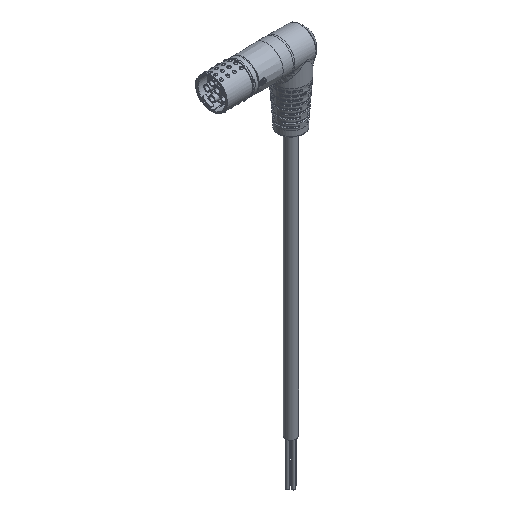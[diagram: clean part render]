
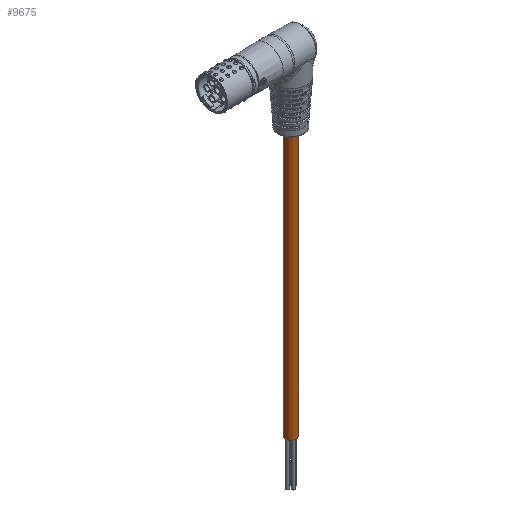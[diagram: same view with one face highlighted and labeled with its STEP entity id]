
A CAD part, isometric view. The second image highlights one B-rep face of the part: STEP entity #9675.
In plain terms, the highlighted cylindrical face has radius 3.7 mm (diameter 7.4 mm), a full revolution.
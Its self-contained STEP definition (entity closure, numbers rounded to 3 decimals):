
#2150 = DIRECTION ( 'NONE',  ( 0., 0., -1. ) ) ;
#5062 = EDGE_LOOP ( 'NONE', ( #20272 ) ) ;
#6909 = EDGE_CURVE ( 'NONE', #18928, #18928, #15703, .T. ) ;
#7512 = AXIS2_PLACEMENT_3D ( 'NONE', #33177, #2150, #8554 ) ;
#8554 = DIRECTION ( 'NONE',  ( 0.762, 0.647, 0. ) ) ;
#9297 = DIRECTION ( 'NONE',  ( 0., 0., -1. ) ) ;
#9675 = ADVANCED_FACE ( 'NONE', ( #20568, #39815 ), #33180, .T. ) ;
#11622 = ORIENTED_EDGE ( 'NONE', *, *, #6909, .T. ) ;
#13464 = CIRCLE ( 'NONE', #7512, 3.7 ) ;
#15703 = CIRCLE ( 'NONE', #21002, 3.7 ) ;
#18928 = VERTEX_POINT ( 'NONE', #28855 ) ;
#19125 = VERTEX_POINT ( 'NONE', #35061 ) ;
#20272 = ORIENTED_EDGE ( 'NONE', *, *, #30372, .F. ) ;
#20568 = FACE_OUTER_BOUND ( 'NONE', #5062, .T. ) ;
#21002 = AXIS2_PLACEMENT_3D ( 'NONE', #21931, #9297, #28344 ) ;
#21931 = CARTESIAN_POINT ( 'NONE',  ( 0., 0., -20.793 ) ) ;
#23985 = EDGE_LOOP ( 'NONE', ( #11622 ) ) ;
#28069 = AXIS2_PLACEMENT_3D ( 'NONE', #40030, #39181, #32777 ) ;
#28344 = DIRECTION ( 'NONE',  ( -0.762, -0.647, 0. ) ) ;
#28855 = CARTESIAN_POINT ( 'NONE',  ( -2.82, -2.395, -20.793 ) ) ;
#30372 = EDGE_CURVE ( 'NONE', #19125, #19125, #13464, .T. ) ;
#32777 = DIRECTION ( 'NONE',  ( -0.762, -0.647, 0. ) ) ;
#33177 = CARTESIAN_POINT ( 'NONE',  ( 0., 0., -202.398 ) ) ;
#33180 = CYLINDRICAL_SURFACE ( 'NONE', #28069, 3.7 ) ;
#35061 = CARTESIAN_POINT ( 'NONE',  ( 2.82, 2.395, -202.398 ) ) ;
#39181 = DIRECTION ( 'NONE',  ( 0., 0., 1. ) ) ;
#39815 = FACE_OUTER_BOUND ( 'NONE', #23985, .T. ) ;
#40030 = CARTESIAN_POINT ( 'NONE',  ( 0., 0., -207.293 ) ) ;
